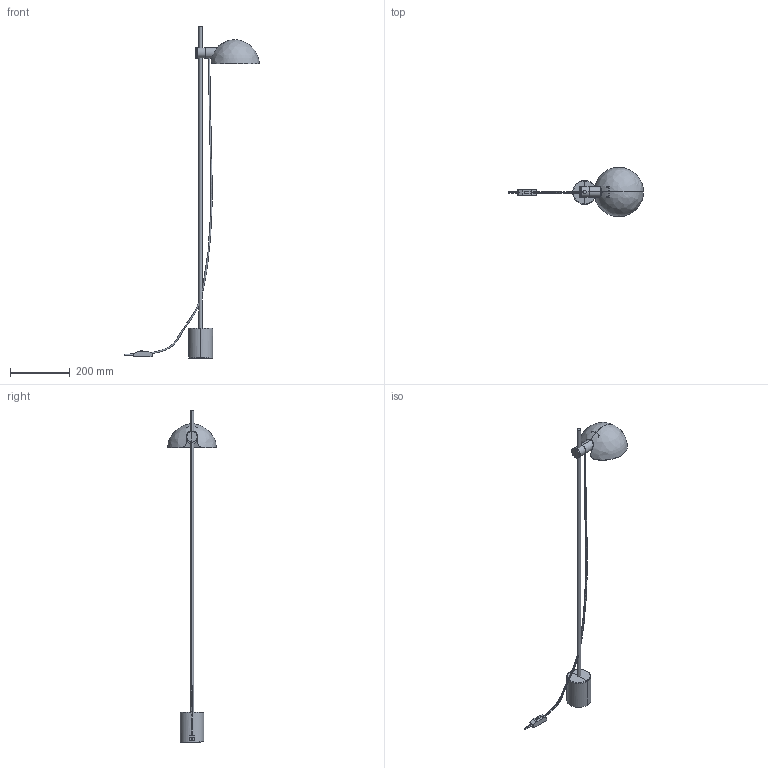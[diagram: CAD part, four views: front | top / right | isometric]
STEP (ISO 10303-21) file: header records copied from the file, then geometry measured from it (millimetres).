
FILE_DESCRIPTION(/* description */ (''),/* implementation_level */ '2;1');
FILE_NAME(/* name */ 'matilda_floorlamp.step',/* time_stamp */ '2024-10-31T13:37:19+01:00',/* author */ ('RenataManzini'),/* organization */ (''),/* preprocessor_version */ 'ST-DEVELOPER v20',/* originating_system */ 'AutoCAD Mechanical',/* authorisation */ '');
FILE_SCHEMA (('AUTOMOTIVE_DESIGN { 1 0 10303 214 3 1 1 }'));
Length unit declared in the file: millimetre
Products named in the file (1): Product
Bounding box: 450.8 x 164.8 x 1110 mm (x, y, z)
Volume: 833522.5 mm3; surface area: 208535.9 mm2
Topology: 7 solids, 7 shells, 113 faces, 257 edges, 151 vertices
Faces by surface type: plane 50, cylinder 37, bspline 18, torus 6, cone 2
Entity records: 9007 total; most frequent: CARTESIAN_POINT 6647, ORIENTED_EDGE 496, DIRECTION 446, EDGE_CURVE 248, AXIS2_PLACEMENT_3D 169, VERTEX_POINT 150, EDGE_LOOP 114, FACE_OUTER_BOUND 113
